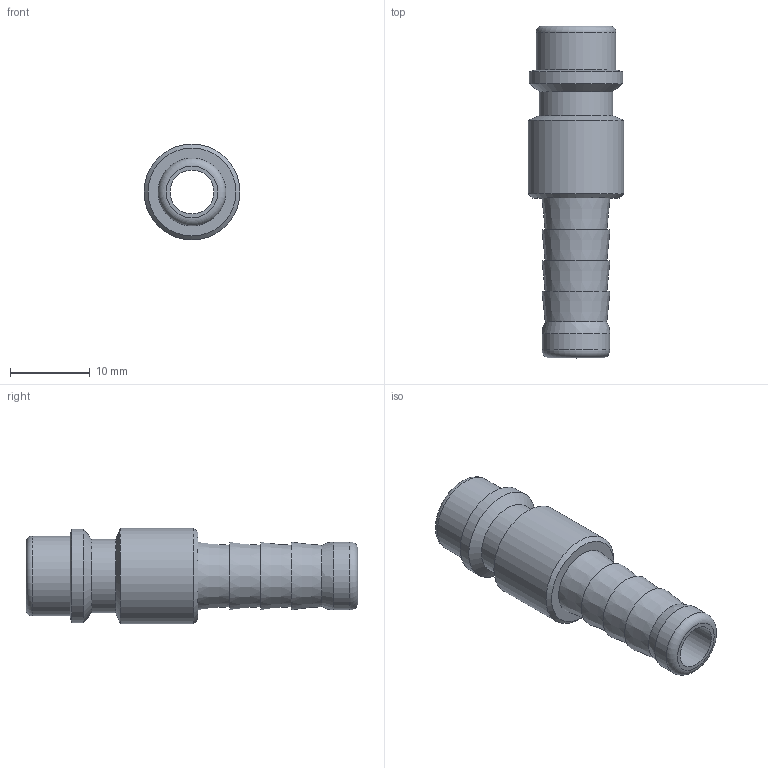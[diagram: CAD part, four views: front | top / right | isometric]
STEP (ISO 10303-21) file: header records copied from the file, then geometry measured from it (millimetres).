
FILE_DESCRIPTION(/* description */ (''),/* implementation_level */ '2;1');
FILE_NAME(/* name */ 'S:\_Tecnico\ArchivioUT\_Disegni3D ingombri\DISEGNI 3D per ingombri\GD\GD900008.stp',/* time_stamp */ '2020-11-19T14:48:46+01:00',/* author */ ('ufficiotecnico3'),/* organization */ (''),/* preprocessor_version */ 'ST-DEVELOPER v18',/* originating_system */ 'Autodesk Inventor 2020',/* authorisation */ '');
FILE_SCHEMA (('AUTOMOTIVE_DESIGN { 1 0 10303 214 3 1 1 }'));
Length unit declared in the file: millimetre
Products named in the file (1): GD900008
Bounding box: 12 x 41.5 x 12 mm (x, y, z)
Volume: 1807.2 mm3; surface area: 2273.7 mm2
Topology: 1 solids, 1 shells, 26 faces, 69 edges, 50 vertices
Faces by surface type: cone 9, plane 7, cylinder 7, torus 2, bspline 1
Full cylindrical faces by diameter (mm): 5.5 x1, 7 x1, 8.5 x1, 9.2 x1, 10 x1, 11.7 x1, 12 x1
Entity records: 929 total; most frequent: DIRECTION 174, CARTESIAN_POINT 172, ORIENTED_EDGE 138, AXIS2_PLACEMENT_3D 79, EDGE_CURVE 69, CIRCLE 53, VERTEX_POINT 50, EDGE_LOOP 33
